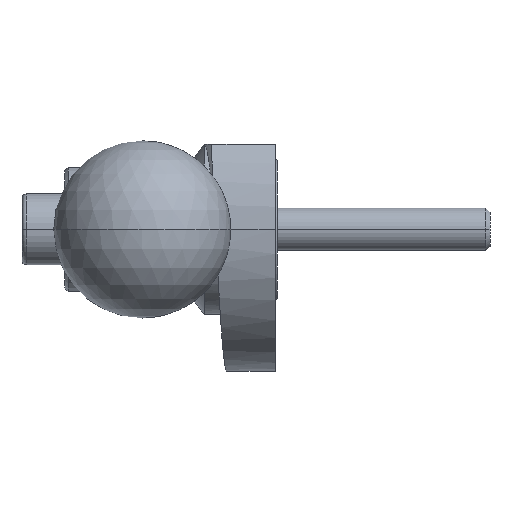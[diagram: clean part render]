
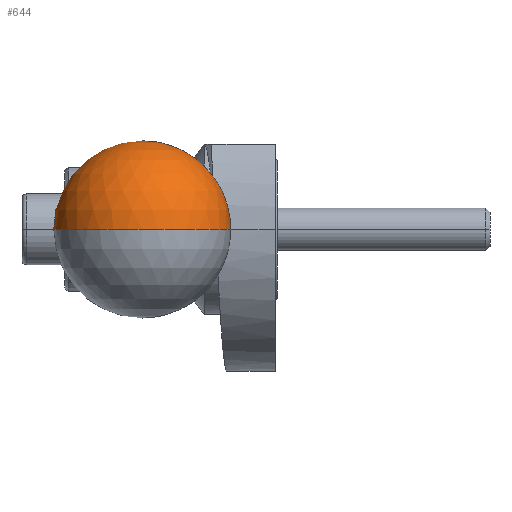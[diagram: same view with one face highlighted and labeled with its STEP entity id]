
A CAD part, left-side view. The second image highlights one B-rep face of the part: STEP entity #644.
In plain terms, the highlighted spherical face has radius 12.5 mm.
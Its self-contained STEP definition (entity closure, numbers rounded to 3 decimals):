
#3 = CARTESIAN_POINT ( 'NONE',  ( -77.5, 1.25, 0. ) ) ;
#74 = DIRECTION ( 'NONE',  ( 0., 0., 1. ) ) ;
#86 = EDGE_CURVE ( 'NONE', #1781, #2058, #1406, .T. ) ;
#95 = ORIENTED_EDGE ( 'NONE', *, *, #1651, .F. ) ;
#136 = ORIENTED_EDGE ( 'NONE', *, *, #86, .F. ) ;
#190 = ORIENTED_EDGE ( 'NONE', *, *, #1973, .T. ) ;
#216 = FACE_OUTER_BOUND ( 'NONE', #1605, .T. ) ;
#221 = AXIS2_PLACEMENT_3D ( 'NONE', #834, #1442, #1767 ) ;
#254 = CIRCLE ( 'NONE', #722, 12.5 ) ;
#300 = DIRECTION ( 'NONE',  ( 1., 0., 0. ) ) ;
#368 = VERTEX_POINT ( 'NONE', #1261 ) ;
#391 = CARTESIAN_POINT ( 'NONE',  ( -87.5, 8.75, 0. ) ) ;
#481 = AXIS2_PLACEMENT_3D ( 'NONE', #942, #300, #1279 ) ;
#644 = ADVANCED_FACE ( 'NONE', ( #216 ), #1612, .T. ) ;
#722 = AXIS2_PLACEMENT_3D ( 'NONE', #797, #1241, #1732 ) ;
#797 = CARTESIAN_POINT ( 'NONE',  ( -87.5, 8.75, 0. ) ) ;
#829 = CARTESIAN_POINT ( 'NONE',  ( -77.5, 16.25, 0. ) ) ;
#834 = CARTESIAN_POINT ( 'NONE',  ( -87.5, 8.75, 0. ) ) ;
#942 = CARTESIAN_POINT ( 'NONE',  ( -77.5, 8.75, 0. ) ) ;
#1241 = DIRECTION ( 'NONE',  ( 0., 0., -1. ) ) ;
#1261 = CARTESIAN_POINT ( 'NONE',  ( -100., 8.75, 0. ) ) ;
#1279 = DIRECTION ( 'NONE',  ( 0., 1., 0. ) ) ;
#1343 = DIRECTION ( 'NONE',  ( 1., 0., 0. ) ) ;
#1382 = CIRCLE ( 'NONE', #1521, 12.5 ) ;
#1406 = CIRCLE ( 'NONE', #481, 7.5 ) ;
#1442 = DIRECTION ( 'NONE',  ( 0., 0., -1. ) ) ;
#1521 = AXIS2_PLACEMENT_3D ( 'NONE', #391, #74, #1343 ) ;
#1605 = EDGE_LOOP ( 'NONE', ( #95, #190, #136 ) ) ;
#1612 = SPHERICAL_SURFACE ( 'NONE', #221, 12.5 ) ;
#1651 = EDGE_CURVE ( 'NONE', #368, #1781, #254, .T. ) ;
#1732 = DIRECTION ( 'NONE',  ( 0., 1., 0. ) ) ;
#1767 = DIRECTION ( 'NONE',  ( 0., -1., 0. ) ) ;
#1781 = VERTEX_POINT ( 'NONE', #829 ) ;
#1973 = EDGE_CURVE ( 'NONE', #368, #2058, #1382, .T. ) ;
#2058 = VERTEX_POINT ( 'NONE', #3 ) ;
